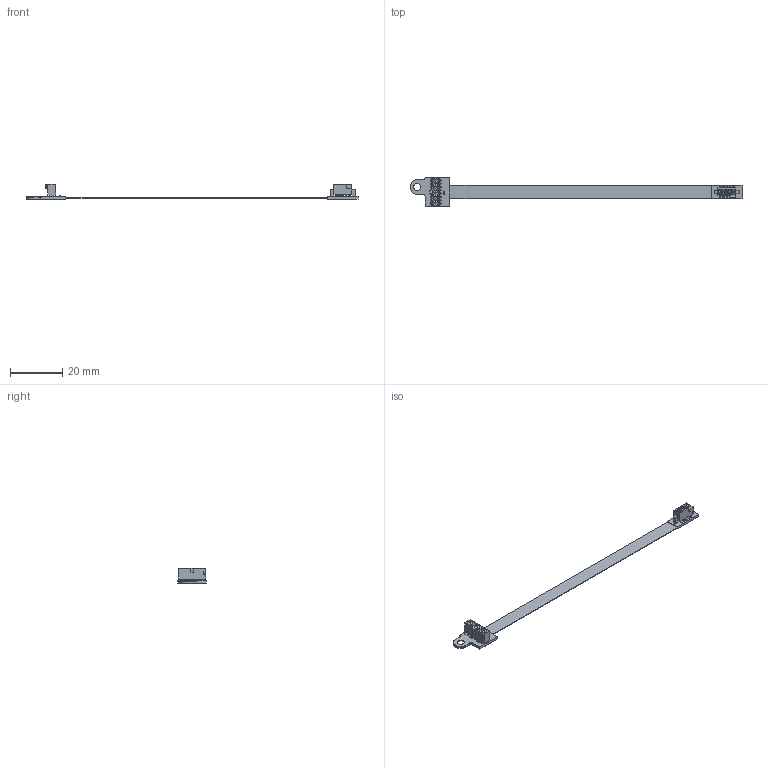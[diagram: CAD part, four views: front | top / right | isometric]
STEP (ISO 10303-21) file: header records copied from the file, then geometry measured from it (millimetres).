
FILE_DESCRIPTION(/* description */ ('VX1927A JTAG-PT FlexPCB for VX154x'),/* implementation_level */ '2;1');
FILE_NAME(/* name */ 'C:\Users\TeamCenterSystem\Documents\Inventor\ASY_000279_CUST_iam.STP',/* time_stamp */ '2024-12-12T13:06:46+01:00',/* author */ ('vista'),/* organization */ (''),/* preprocessor_version */ 'ST-DEVELOPER v18.1',/* originating_system */ 'Autodesk Inventor 2022',/* authorisation */ '');
FILE_SCHEMA (('AUTOMOTIVE_DESIGN { 1 0 10303 214 3 1 1 }'));
Length unit declared in the file: millimetre
Products named in the file (2): ASY_000279_CUST; ASY_000279
Assembly tree (1 placements, depth 2):
  ASY_000279_CUST
    ASY_000279
Bounding box: 126.75 x 11 x 5.97 mm (x, y, z)
Volume: 506.9 mm3; surface area: 2191.4 mm2
Topology: 16 solids, 16 shells, 867 faces, 2231 edges, 1444 vertices
Faces by surface type: plane 672, cylinder 189, bspline 3, torus 2, cone 1
Full cylindrical faces by diameter (mm): 0.65 x20, 1.27 x2, 1.4 x2, 2.7 x1
Entity records: 26525 total; most frequent: CARTESIAN_POINT 4586, ORIENTED_EDGE 4462, DIRECTION 4347, EDGE_CURVE 2231, LINE 1837, VECTOR 1837, VERTEX_POINT 1444, AXIS2_PLACEMENT_3D 1255
